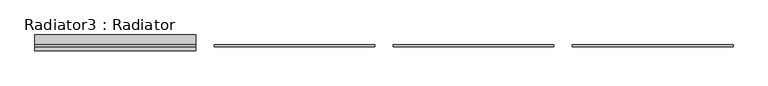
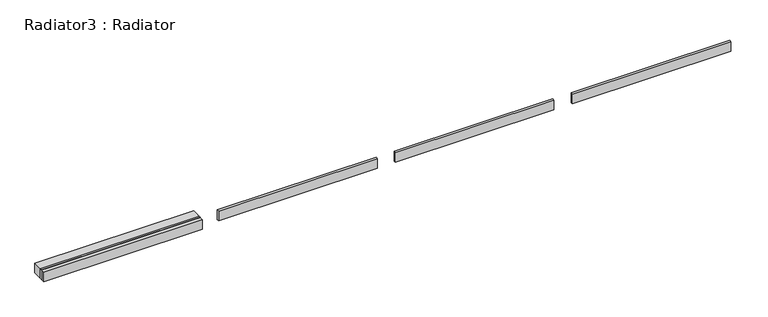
"""IFC4 building model written with IfcOpenShell, lengths in millimetres: proxy geometry, Radiator3 : Radiator."""

from ifc_helpers import new_model, si_unit, frame, origin, place, context, project, spatial, polyline, outline, extrude, source, transform, mapped, element, save


def radiator3_radiator_d09cfcde(model_context):
    return source(origin(), model_context, "Body", "SweptSolid", [
        extrude(outline(polyline([(18227.3384309, -6622.793405), (9927.9060211, -6622.793405), (9927.9060211, -6509.4442695), (18227.3384309, -6509.4442695), (18227.3384309, -6622.793405)])), frame((0.0, 0.0, 51206.4), z_axis=(0.0, 0.0, 1.0), x_axis=(1.0, 0.0, 0.0)), (0.0, 0.0, 1.0), 539.8207245),
        extrude(outline(polyline([(671.2097553, -6622.793405), (671.2097553, -6509.4442695), (8970.6421651, -6509.4442695), (8970.6421651, -6622.793405), (671.2097553, -6622.793405)])), frame((0.0, 0.0, 51206.4), z_axis=(0.0, 0.0, 1.0), x_axis=(1.0, 0.0, 0.0)), (0.0, 0.0, 1.0), 539.8207245),
        extrude(outline(polyline([(-274.9578349, -6622.793405), (-8574.3902447, -6622.793405), (-8574.3902447, -6509.4442695), (-274.9578349, -6509.4442695), (-274.9578349, -6622.793405)])), frame((0.0, 0.0, 51206.4), z_axis=(0.0, 0.0, 1.0), x_axis=(1.0, 0.0, 0.0)), (0.0, 0.0, 1.0), 539.8207245),
        extrude(outline(polyline([(-17838.6076598, -6622.793405), (-17838.6076598, -6509.4442695), (-9535.9528098, -6509.4442695), (-9535.9528098, -6622.793405), (-17838.6076598, -6622.793405)])), frame((0.0, 0.0, 51206.4), z_axis=(0.0, 0.0, 1.0), x_axis=(1.0, 0.0, 0.0)), (0.0, 0.0, 1.0), 539.8207245),
        extrude(outline(polyline([(-9539.17525, -6010.5270567), (-9539.17525, -6824.7064015), (-17838.6076598, -6824.7064015), (-17838.6076598, -6010.5270567), (-9539.17525, -6010.5270567)])), frame((0.0, 0.0, 51206.4), z_axis=(0.0, 0.0, 1.0), x_axis=(1.0, 0.0, 0.0)), (0.0, 0.0, 1.0), 526.0281286),
    ])


if __name__ == "__main__":
    model = new_model("IFC4")
    model_context = context("Model", 3, world=origin())
    ifc_project = project(units=[si_unit("LENGTHUNIT", "METRE", prefix="MILLI")], contexts=[model_context])
    site = spatial("IfcSite", under=ifc_project)
    building = spatial("IfcBuilding", under=site)
    placement = place(None, origin())
    radiator3_radiator_shape = radiator3_radiator_d09cfcde(model_context)
    element("IfcBuildingElementProxy", 1, Name="Radiator3 : Radiator", ObjectType="Radiator3 : Radiator", at=placement, inside=building, context=model_context, shape_type="MappedRepresentation", body=[
        mapped(radiator3_radiator_shape, transform((0.0, 0.0, 0.0), x_axis=(1.0, 0.0, 0.0), y_axis=(0.0, 1.0, 0.0), z_axis=(0.0, 0.0, 1.0))),
    ])
    save(model, "model.ifc")
